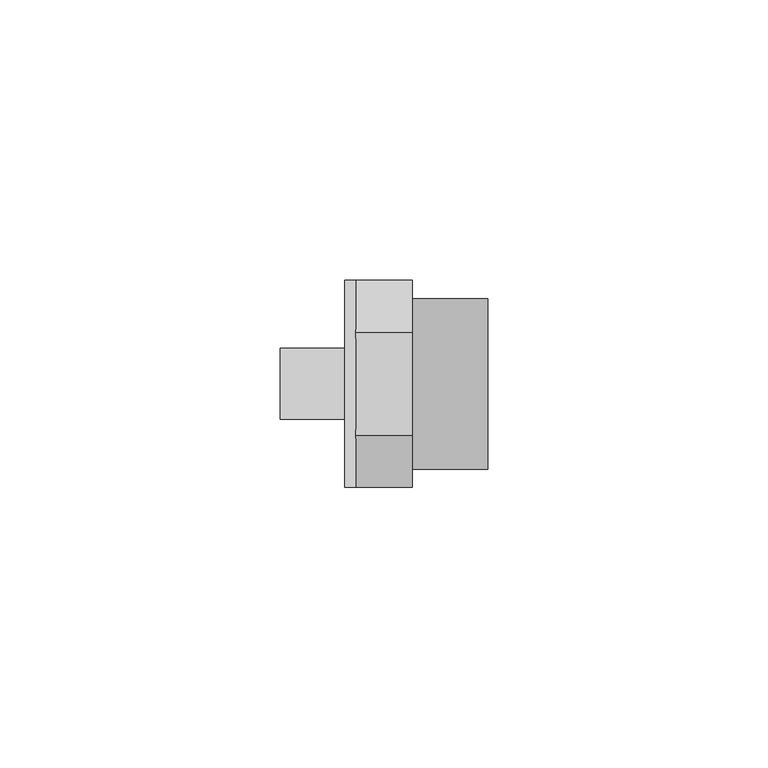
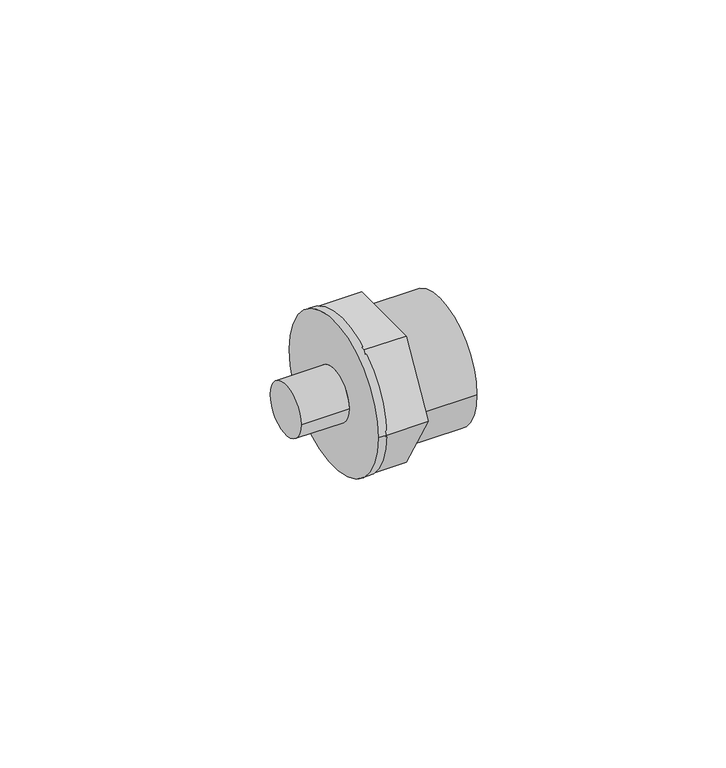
"""IFC4 building model written with IfcOpenShell, lengths in millimetres: pipe fitting geometry, 01011169 : Manguitos M/H."""

import ifcopenshell
import ifcopenshell.guid

model = None  # the IFC model being written
_history = None  # IfcOwnerHistory: only IFC2X3 demands one
_inside = {}  # id of a spatial element -> (the spatial element, [elements in it])
_under = {}  # id of a project, library or spatial element -> (it, [spatial elements below it])
_declared = {}  # id of a project -> (the project, [libraries it declares])
_typed = {}  # id of a type object -> (the type object, [elements of that type])
_made_of = {}  # id of a material, layer set ... -> (it, [elements and type objects made of it])


def new_model(schema):
    """Start an empty IFC model of exactly this schema.

    Asked for "IFC4X3", IfcOpenShell would pick the latest addendum, in which some entities
    have other attributes; the version numbers below select the first issue.
    IFC2X3 requires an IfcOwnerHistory on every rooted entity: one is made here for all.
    """
    global model, _history
    if schema == "IFC4X3":
        model = ifcopenshell.file(schema_version=(4, 3, 0, 0))
    else:
        model = ifcopenshell.file(schema=schema)
    _inside.clear()
    _under.clear()
    _declared.clear()
    _typed.clear()
    _made_of.clear()
    _history = None
    if model.schema == "IFC2X3":
        org = make("IfcOrganization", Name="unknown")
        user = make(
            "IfcPersonAndOrganization",
            ThePerson=make("IfcPerson", FamilyName="unknown"),
            TheOrganization=org,
        )
        app = make(
            "IfcApplication",
            ApplicationDeveloper=org,
            Version="unknown",
            ApplicationFullName="unknown",
            ApplicationIdentifier="unknown",
        )
        _history = make(
            "IfcOwnerHistory",
            OwningUser=user,
            OwningApplication=app,
            ChangeAction="ADDED",
            CreationDate=0,
        )
    return model


def make(cls, **values):
    """One entity of the class cls with the attributes given. An attribute that is None is left unset."""
    return model.create_entity(
        cls, **{name: value for name, value in values.items() if value is not None}
    )


def rooted(cls, **values):
    """An entity with a GlobalId (a new one), such as an element, a storey or a relation."""
    return make(cls, GlobalId=ifcopenshell.guid.new(), OwnerHistory=_history, **values)


def si_unit(unit_type, name, prefix=None):
    """IfcSIUnit, for example si_unit("LENGTHUNIT", "METRE", prefix="MILLI")."""
    return make("IfcSIUnit", UnitType=unit_type, Prefix=prefix, Name=name)


def assignment(units):
    """IfcUnitAssignment: the units of a project."""
    return None if units is None else make("IfcUnitAssignment", Units=units)


def point(xyz):
    """IfcCartesianPoint."""
    return None if xyz is None else make("IfcCartesianPoint", Coordinates=xyz)


def direction(xyz):
    """IfcDirection."""
    return None if xyz is None else make("IfcDirection", DirectionRatios=xyz)


def frame(location, z_axis=None, x_axis=None):
    """IfcAxis2Placement3D, a coordinate frame: its origin and axes. An axis left out is left unset."""
    return make(
        "IfcAxis2Placement3D",
        Location=point(location),
        Axis=direction(z_axis),
        RefDirection=direction(x_axis),
    )


def origin():
    """The frame at (0, 0, 0) with its axes left unset."""
    return frame((0.0, 0.0, 0.0))


def place(relative_to, where):
    """IfcLocalPlacement: puts the frame where relative to a parent placement (None: the world)."""
    return make(
        "IfcLocalPlacement", PlacementRelTo=relative_to, RelativePlacement=where
    )


def context(
    kind, dimensions, precision=None, world=None, true_north=None, identifier=None
):
    """IfcGeometricRepresentationContext, for example the 3D "Model" context."""
    return make(
        "IfcGeometricRepresentationContext",
        ContextIdentifier=identifier,
        ContextType=kind,
        CoordinateSpaceDimension=dimensions,
        Precision=precision,
        WorldCoordinateSystem=world,
        TrueNorth=true_north,
    )


def project(units=None, contexts=None):
    """IfcProject with its units and contexts."""
    return rooted(
        "IfcProject",
        Name="project",
        RepresentationContexts=contexts,
        UnitsInContext=assignment(units),
    )


def spatial(cls, under=None, at=None, **own):
    """A site, building, storey or space (cls), placed at a placement, below another one or the project."""
    s = rooted(cls, ObjectPlacement=at, **own)
    if under is not None:
        _under.setdefault(under.id(), (under, []))[1].append(s)
    return s


def circle_curve(where, radius):
    """IfcCircle in the frame where."""
    return make("IfcCircle", Position=where, Radius=radius)


def shape(context_of_items, identifier, shape_type, items):
    """IfcShapeRepresentation: the items that make up one representation, for example the "Body"."""
    return make(
        "IfcShapeRepresentation",
        ContextOfItems=context_of_items,
        RepresentationIdentifier=identifier,
        RepresentationType=shape_type,
        Items=items,
    )


def source(mapping_origin, context_of_items, identifier, shape_type, items):
    """IfcRepresentationMap: a shape defined once, which mapped items show again and again."""
    return make(
        "IfcRepresentationMap",
        MappingOrigin=mapping_origin,
        MappedRepresentation=shape(context_of_items, identifier, shape_type, items),
    )


def transform(
    local_origin,
    x_axis=None,
    y_axis=None,
    z_axis=None,
    scale=None,
    scale2=None,
    scale3=None,
    uniform=True,
):
    """IfcCartesianTransformationOperator3D, or its non-uniform kind. x_axis, y_axis, z_axis: its Axis1, 2, 3."""
    if uniform:
        return make(
            "IfcCartesianTransformationOperator3D",
            Axis1=direction(x_axis),
            Axis2=direction(y_axis),
            LocalOrigin=point(local_origin),
            Scale=scale,
            Axis3=direction(z_axis),
        )
    return make(
        "IfcCartesianTransformationOperator3DnonUniform",
        Axis1=direction(x_axis),
        Axis2=direction(y_axis),
        LocalOrigin=point(local_origin),
        Scale=scale,
        Axis3=direction(z_axis),
        Scale2=scale2,
        Scale3=scale3,
    )


def mapped(mapping_source, mapping_target):
    """IfcMappedItem: shows the shape of a source again, moved by a transform."""
    return make(
        "IfcMappedItem", MappingSource=mapping_source, MappingTarget=mapping_target
    )


def made_of(thing, what):
    """Note that an element or type object is made of a material, layer set ...; save() writes the relation."""
    if what is not None:
        _made_of.setdefault(what.id(), (what, []))[1].append(thing)
    return thing


def element(
    cls,
    number,
    at=None,
    inside=None,
    cuts=None,
    type_object=None,
    material=None,
    context=None,
    identifier="Body",
    shape_type=None,
    held_by="IfcProductDefinitionShape",
    body=None,
    shapes=None,
    **own,
):
    """One element of the class cls, such as IfcWall. Its Tag is "e" and its number.

    at: its placement. inside: the storey or other place that contains it. cuts: it is an
    opening in that element (IfcRelVoidsElement). A single representation is given by context,
    identifier, shape_type and body (its items); several are given by shapes. held_by: the class
    of the entity that holds the representations. save() writes the other relations.
    """
    e = rooted(cls, Tag="e%d" % number, ObjectPlacement=at, **own)
    if body is not None:
        shapes = [shape(context, identifier, shape_type, body)]
    if shapes is not None:
        e.Representation = make(held_by, Representations=shapes)
    if inside is not None:
        _inside.setdefault(inside.id(), (inside, []))[1].append(e)
    if cuts is not None:
        rooted(
            "IfcRelVoidsElement", RelatingBuildingElement=cuts, RelatedOpeningElement=e
        )
    if type_object is not None:
        _typed.setdefault(type_object.id(), (type_object, []))[1].append(e)
    return made_of(e, material)


def aggregate(whole, parts):
    """IfcRelAggregates: a whole, such as a stair, and the parts it consists of."""
    return rooted("IfcRelAggregates", RelatingObject=whole, RelatedObjects=parts)


def save(model, path):
    """Write the relations noted so far, then the file.

    IfcRelAggregates (storeys below a building ...), IfcRelContainedInSpatialStructure (elements
    in a storey), IfcRelDefinesByType, IfcRelAssociatesMaterial and IfcRelDeclares: one each for
    every whole, place, type object, material and project.
    """
    for whole, parts in _under.values():
        aggregate(whole, parts)
    for where, things in _inside.values():
        rooted(
            "IfcRelContainedInSpatialStructure",
            RelatedElements=things,
            RelatingStructure=where,
        )
    for kind, things in _typed.values():
        rooted("IfcRelDefinesByType", RelatedObjects=things, RelatingType=kind)
    for what, things in _made_of.values():
        rooted("IfcRelAssociatesMaterial", RelatedObjects=things, RelatingMaterial=what)
    for by, libraries in _declared.values():
        rooted("IfcRelDeclares", RelatingContext=by, RelatedDefinitions=libraries)
    model.write(path)


def plane_surface(at):
    """IfcPlane: the flat surface through the origin of the frame at, square to its z axis."""
    return make("IfcPlane", Position=at)


def cylinder_surface(at, radius):
    """IfcCylindricalSurface: all points at the distance radius from the z axis of the frame at."""
    return make("IfcCylindricalSurface", Position=at, Radius=radius)


def advanced_brep(points, edges, surfaces, faces):
    """IfcAdvancedBrep: a solid bounded by faces that lie on surfaces and meet in shared edges.

    An edge is (start, end): straight between two places in points (the first is 0);
    or (start, end, curve); or (start, end, curve, False) where it runs against its curve.
    A face is (place in surfaces, loops), or (place, loops, False) where it looks against
    its surface's normal. A loop lists edges by number (the first is 1), with a minus sign
    where the edge is run from its end to its start. The first loop is the outer one.
    """
    corners = [point(p) for p in points]
    vertices = [make("IfcVertexPoint", VertexGeometry=c) for c in corners]
    made = []
    for start, end, *more in edges:
        made.append(
            make(
                "IfcEdgeCurve",
                EdgeStart=vertices[start],
                EdgeEnd=vertices[end],
                EdgeGeometry=more[0] if more else make("IfcPolyline", Points=[corners[start], corners[end]]),
                SameSense=more[1] if len(more) > 1 else True,
            )
        )
    hull = []
    for where, loops, *sense in faces:
        bounds = []
        for j, loop in enumerate(loops):
            ring = [make("IfcOrientedEdge", EdgeElement=made[abs(k) - 1], Orientation=k > 0) for k in loop]
            bounds.append(
                make(
                    "IfcFaceOuterBound" if j == 0 else "IfcFaceBound",
                    Bound=make("IfcEdgeLoop", EdgeList=ring),
                    Orientation=True,
                )
            )
        hull.append(make("IfcAdvancedFace", Bounds=bounds, FaceSurface=surfaces[where], SameSense=sense[0] if sense else True))
    return make("IfcAdvancedBrep", Outer=make("IfcClosedShell", CfsFaces=hull))


def pipe_fitting_c75c1a07(model_context):
    return source(origin(), model_context, "Body", "AdvancedBrep", [
        advanced_brep(
        [(5.0, -9.2376043, 16.0), (5.0, -18.4752086, 0.0), (5.0, -9.2376043, -16.0), (5.0, 9.2376043, -16.0), (5.0, 18.4752086, 0.0), (5.0, 9.2376043, 16.0), (5.0, -15.2, 0.0), (5.0, 15.2, 0.0), (-5.0, -9.2376043, 16.0), (-5.0, -18.4752086, 0.0), (-5.0, -9.2376043, -16.0), (-5.0, 9.2376043, -16.0), (-5.0, 18.4752086, 0.0), (-5.0, 9.2376043, 16.0), (18.5, -15.2, 0.0), (18.5, 15.2, 0.0), (-18.5, 6.35, 0.0), (-18.5, -6.35, 0.0), (-7.0, -6.35, 0.0), (-7.0, 6.35, 0.0), (-7.0, -18.4752086, 0.0), (-7.0, 18.4752086, 0.0)],
        [
            (0, 1),
            (1, 2),
            (2, 3),
            (3, 4),
            (4, 5),
            (5, 0),
            (6, 7, circle_curve(frame((5.0, 0.0, 0.0), z_axis=(-1.0, 0.0, 0.0), x_axis=(0.0, 1.0, 0.0)), 15.2)),
            (7, 6, circle_curve(frame((5.0, 0.0, 0.0), z_axis=(-1.0, 0.0, 0.0), x_axis=(0.0, 1.0, 0.0)), 15.2)),
            (0, 8),
            (8, 9),
            (9, 1),
            (9, 10),
            (10, 2),
            (10, 11),
            (11, 3),
            (11, 12),
            (12, 4),
            (12, 13),
            (13, 5),
            (13, 8),
            (14, 15, circle_curve(frame((18.5, 0.0, 0.0), z_axis=(1.0, 0.0, 0.0), x_axis=(0.0, 1.0, 0.0)), 15.2)),
            (15, 14, circle_curve(frame((18.5, 0.0, 0.0), z_axis=(1.0, 0.0, 0.0), x_axis=(0.0, 1.0, 0.0)), 15.2)),
            (15, 7),
            (6, 14),
            (16, 17, circle_curve(frame((-18.5, 0.0, 0.0), z_axis=(-1.0, 0.0, 0.0), x_axis=(0.0, -1.0, 0.0)), 6.35)),
            (17, 16, circle_curve(frame((-18.5, 0.0, 0.0), z_axis=(-1.0, 0.0, 0.0), x_axis=(0.0, -1.0, 0.0)), 6.35)),
            (17, 18),
            (18, 19, circle_curve(frame((-7.0, 0.0, 0.0), z_axis=(-1.0, 0.0, 0.0), x_axis=(0.0, -1.0, 0.0)), 6.35)),
            (19, 16),
            (19, 18, circle_curve(frame((-7.0, 0.0, 0.0), z_axis=(-1.0, 0.0, 0.0), x_axis=(0.0, -1.0, 0.0)), 6.35)),
            (8, 9, circle_curve(frame((-5.0, 0.0, 0.0), z_axis=(1.0, 0.0, 0.0), x_axis=(0.0, 1.0, 0.0)), 18.4752086)),
            (12, 13, circle_curve(frame((-5.0, 0.0, 0.0), z_axis=(1.0, 0.0, 0.0), x_axis=(0.0, 1.0, 0.0)), 18.4752086)),
            (13, 8, circle_curve(frame((-5.0, 0.0, 0.0), z_axis=(1.0, 0.0, 0.0), x_axis=(0.0, 1.0, 0.0)), 18.4752086)),
            (11, 12, circle_curve(frame((-5.0, 0.0, 0.0), z_axis=(1.0, 0.0, 0.0), x_axis=(0.0, 1.0, 0.0)), 18.4752086)),
            (9, 10, circle_curve(frame((-5.0, 0.0, 0.0), z_axis=(1.0, 0.0, 0.0), x_axis=(0.0, 1.0, 0.0)), 18.4752086)),
            (10, 11, circle_curve(frame((-5.0, 0.0, 0.0), z_axis=(1.0, 0.0, 0.0), x_axis=(0.0, 1.0, 0.0)), 18.4752086)),
            (20, 21, circle_curve(frame((-7.0, 0.0, 0.0), z_axis=(-1.0, 0.0, 0.0), x_axis=(0.0, 1.0, 0.0)), 18.4752086)),
            (21, 20, circle_curve(frame((-7.0, 0.0, 0.0), z_axis=(-1.0, 0.0, 0.0), x_axis=(0.0, 1.0, 0.0)), 18.4752086)),
            (21, 12),
            (9, 20),
        ],
        [
            plane_surface(frame((5.0, -9.2376043, 16.0), z_axis=(1.0000000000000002, 0.0, 0.0), x_axis=(0.0, -0.5000000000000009, -0.8660254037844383))),
            plane_surface(frame((5.0, -9.2376043, 16.0), z_axis=(0.0, -0.8660254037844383, 0.5000000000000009), x_axis=(-1.0, 0.0, 0.0))),
            plane_surface(frame((5.0, -18.4752086, 0.0), z_axis=(0.0, -0.866025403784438, -0.500000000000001), x_axis=(-1.0, 0.0, 0.0))),
            plane_surface(frame((5.0, -9.2376043, -16.0), z_axis=(0.0, 0.0, -1.0), x_axis=(-1.0, 0.0, 0.0))),
            plane_surface(frame((5.0, 9.2376043, -16.0), z_axis=(0.0, 0.8660254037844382, -0.500000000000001), x_axis=(-1.0, 0.0, 0.0))),
            plane_surface(frame((5.0, 18.4752086, 0.0), z_axis=(0.0, 0.866025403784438, 0.500000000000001), x_axis=(-1.0, 0.0, 0.0))),
            plane_surface(frame((5.0, 9.2376043, 16.0), z_axis=(0.0, 0.0, 1.0), x_axis=(-1.0, 0.0, 0.0))),
            plane_surface(frame((18.5, 0.0, 0.0), z_axis=(1.0, 0.0, 0.0), x_axis=(0.0, 0.0, 1.0))),
            cylinder_surface(frame((0.0, 0.0, 0.0), z_axis=(-1.0, 0.0, 0.0), x_axis=(0.0, 1.0, 0.0)), 15.2),
            plane_surface(frame((-18.5, 0.0, 0.0), z_axis=(-1.0, 0.0, 0.0), x_axis=(0.0, 0.0, 1.0))),
            cylinder_surface(frame((0.0, 0.0, 0.0), z_axis=(1.0, 0.0, 0.0), x_axis=(0.0, -1.0, 0.0)), 6.35),
            plane_surface(frame((-5.0, 18.4752086, 0.0), z_axis=(1.0, 0.0, 0.0), x_axis=(0.0, 0.0, 1.0))),
            plane_surface(frame((-7.0, 18.4752086, 0.0), z_axis=(-1.0, 0.0, 0.0), x_axis=(0.0, 0.0, -1.0))),
            cylinder_surface(frame((-7.0, 0.0, 0.0), z_axis=(1.0, 0.0, 0.0), x_axis=(0.0, 1.0, 0.0)), 18.4752086),
        ],
        [
            (0, [[1, 2, 3, 4, 5, 6], [7, 8]]),
            (1, [[-1, 9, 10, 11]]),
            (2, [[-2, -11, 12, 13]]),
            (3, [[-3, -13, 14, 15]]),
            (4, [[-4, -15, 16, 17]]),
            (5, [[-5, -17, 18, 19]]),
            (6, [[-6, -19, 20, -9]]),
            (7, [[21, 22]]),
            (8, [[-22, 23, -7, 24]]),
            (8, [[-21, -24, -8, -23]]),
            (9, [[25, 26]]),
            (10, [[-26, 27, 28, 29]]),
            (10, [[-25, -29, 30, -27]]),
            (11, [[31, -10]]),
            (11, [[32, -18]]),
            (11, [[33, -20]]),
            (11, [[34, -16]]),
            (11, [[35, -12]]),
            (11, [[36, -14]]),
            (12, [[37, 38], [-28, -30]]),
            (13, [[-38, 39, -34, -36, -35, 40]]),
            (13, [[-37, -40, -31, -33, -32, -39]]),
        ],
    ),
    ])


if __name__ == "__main__":
    model = new_model("IFC4")
    model_context = context("Model", 3, world=origin())
    ifc_project = project(units=[si_unit("LENGTHUNIT", "METRE", prefix="MILLI")], contexts=[model_context])
    site = spatial("IfcSite", under=ifc_project)
    building = spatial("IfcBuilding", under=site)
    placement = place(None, origin())
    pipe_fitting_shape = pipe_fitting_c75c1a07(model_context)
    element("IfcPipeFitting", 1, ObjectType="01011169 : Manguitos M/H", at=placement, inside=building, context=model_context, shape_type="MappedRepresentation", body=[
        mapped(pipe_fitting_shape, transform((0.0, 0.0, 0.0), x_axis=(1.0, 0.0, 0.0), y_axis=(0.0, 1.0, 0.0), z_axis=(0.0, 0.0, 1.0))),
    ])
    save(model, "model.ifc")
